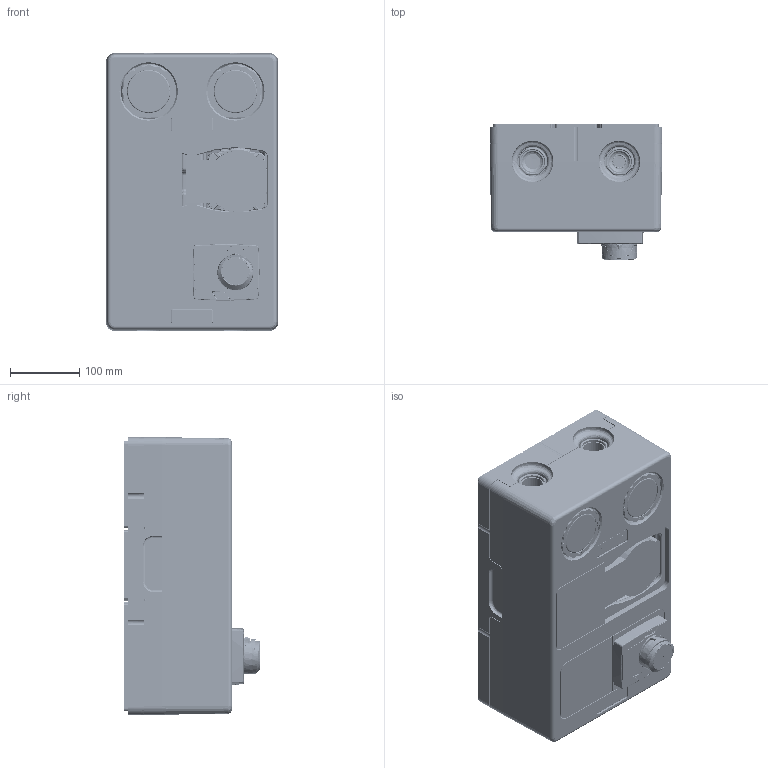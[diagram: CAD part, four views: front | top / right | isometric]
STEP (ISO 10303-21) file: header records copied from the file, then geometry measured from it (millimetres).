
FILE_DESCRIPTION (( 'STEP AP214' ), '1' );
FILE_NAME ('77814.STEP', '2022-02-17T11:38:51', ( '' ), ( '' ), 'SwSTEP 2.0', 'SolidWorks 2021', '' );
FILE_SCHEMA (( 'AUTOMOTIVE_DESIGN' ));
Length unit declared in the file: millimetre
Products named in the file (157): ZYLINDER_0; 0_0_0_4; STEG_25; Translationsteil_1_Blende2 Stellmotor; HANDRAD_05 00 410222; 907380 0001_FKS-DIN7380_2-10.9-TX20-(A2K)-M4X12_0_4; 05 00 410112_Pumpenkugelhahn G1iGxFl. m. SKB; STEG_11; Translationsteil_0_AEI Logo; O-RING 8,73X1,78_801 000 0202; Kugeldichtung DN20 PTFE_760 000 0109_18__3; 05 00 000274_Keilwelle Mischerbet_X_E4tigung; 05 01 000608_Lagerdeckel KSV 12 bedr.; 05 01 000470 (2)_Deckel; nach Tabelle_3-W-Mischer DN25; 760 000 0162_Flachdichtung 44x32x2 F391_2; 0_0_0_3; 05 00 410347_Distanzh_X_FClse kurz; DECKGLAS_2; STEG_26; 05 01 000794_Tr_X_E4gerplatte wei_X_DF LOGO AFRISO; KUGEL SKB Lu; STEG_21; STEG_4; 77813_PrimoTherm 180-2 K 25 3WM-SM; 05 01 000392_Mischergeh_X_E4use DN 25; STEG_17; MUTTER_05 00 350205; Tr_X_E4gerplatte neutral (60x20) wei_X_DF_05 01 0006_84; STEG_3; O-RING 8,73X1,78_O-Ring 8,73x1,78_15_; STEG_16; 05 01 000470 (6)_Blende TH oben; STEG_15; 05 00 410222_Handrad f_X_FCr Thermometer; SPINDEL_05 00 410197; ZIFFERBLATT_2; M9120003; 05 00 410240_Mitnahme-Blech; DRUCK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
Assembly tree (156 placements, depth 9):
  77814
    77813_PrimoTherm 180-2 K 25 3WM-SM
      05 01 02 00 _PG DN25 gem.vorm.
        05 00 32 10_Pumpenkugelhahn VL vorm.
          05 00 410111_05 00 410111
            Einschraubk_X_F6rper_05 00 410483
            SPINDEL_05 00 410197
              SPINDEL_05 00 410197
              O-RING 8,73X1,78_801 000 0202
              O-RING 8,73X1,78_O-Ring 8,73x1,78_15_
            Kugeldichtung DN20 PTFE_760 000 0109_18_
            Kugeldichtung DN20 PTFE_760 000 0109_18__2
            KUGEL SKB Lu
              KUGEL RL_05 00 410484
            Geh_X_E4use Kugelhahn m. Flansch DN 20
          HANDRAD_05 00 410222
            HANDRAD_05 00 410222
            STEGE
            0_0_0
              0_0_0_2
                STEG
                STEG_2
                STEG_3
                0_0_0_3
                  STEG_4
                  STEG_5
              0_0_0_4
                STEG_6
                STEG_7
                STEG_8
                STEG_9
              0_0_0_5
                STEG_10
                STEG_11
                STEG_12
                STEG_13
            Tauchh_X_FClse_05 00 410223
            ZAHNSCHEIBE_906797 8400
            Mitnahme-Blech_05 00 410240
              BLECHLASCHE
        05 01 02 02_R_X_FCcklaufstrang DN25 gem. vormontiert
          05 00 410112_Pumpenkugelhahn G1iGxFl. m. SKB
            Einschraubk_X_F6rper_05 00 410483_2
            SPINDEL_05 00 410197_2
              SPINDEL_05 00 410197_2
              O-RING 8,73X1,78_801 000 0202_2
              O-RING 8,73X1,78_O-Ring 8,73x1,78_15__2
            Kugeldichtung DN20 PTFE_760 000 0109_18__3
            Kugeldichtung DN20 PTFE_760 000 0109_18__4
            Geh_X_E4use Kugelhahn m. Flansch DN 20_2
          05 00 410222_Handrad f_X_FCr Thermometer
            05 00 410222_Handrad f_X_FCr Thermometer
            STEGE_2
            0_0_0_6
              0_0_0_7
                STEG_14
                STEG_15
                STEG_16
                0_0_0_8
                  STEG_17
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Bounding box: 248.01 x 195.5 x 400.08 mm (x, y, z)
Volume: 10738470.9 mm3; surface area: 1663117 mm2
Topology: 274 solids, 282 shells, 14921 faces, 38797 edges, 24665 vertices
Faces by surface type: plane 7125, cylinder 3553, bspline 3273, cone 923, torus 47
Entity records: 827086 total; most frequent: CARTESIAN_POINT 362111, ORIENTED_EDGE 77166, DIRECTION 60219, EDGE_CURVE 38601, VERTEX_POINT 24667, LINE 21071, VECTOR 21071, AXIS2_PLACEMENT_3D 19574
